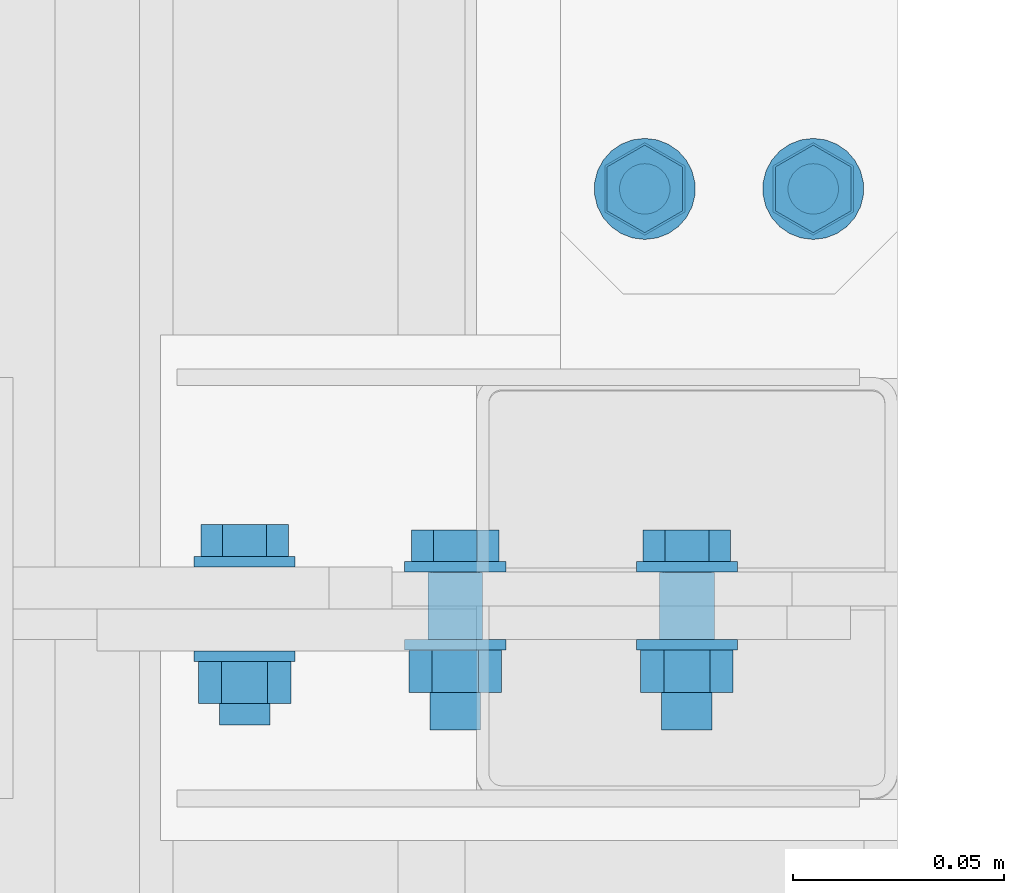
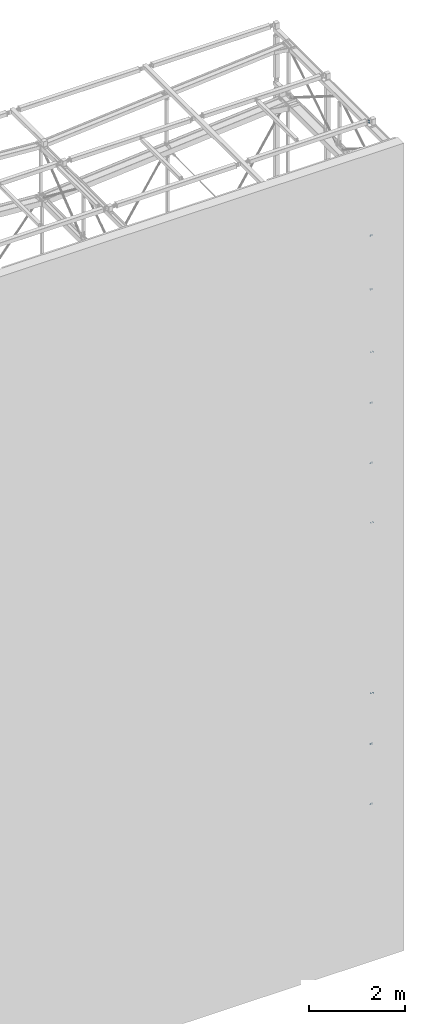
# One storey, part 257 of 271: 10 mechanical fasteners, 10 elements without a shape of their own.
"""IFC2X3 building model written with IfcOpenShell, lengths in millimetres."""

from ifc_helpers import new_model, si_unit, frame, frame_2d, origin_with_axes, origin_2d_with_axis, place, context, subcontext, project, spatial, polyline, circle_curve, parameter, trimmed, segment, composite_curve, circle, outline, extrude, source, transform, mapped, material, type_object, element, aggregate, save


model = new_model("IFC2X3")

# Units and contexts
model_context = context("Model", 3, precision=1e-05, world=origin_with_axes())
body_context = subcontext(model_context, "Body", "Model", "MODEL_VIEW")
ifc_project = project(units=[si_unit("LENGTHUNIT", "METRE", prefix="MILLI"), si_unit("AREAUNIT", "SQUARE_METRE"), si_unit("VOLUMEUNIT", "CUBIC_METRE"), si_unit("MASSUNIT", "GRAM", prefix="KILO"), si_unit("TIMEUNIT", "SECOND"), si_unit("PLANEANGLEUNIT", "RADIAN"), si_unit("SOLIDANGLEUNIT", "STERADIAN"), si_unit("THERMODYNAMICTEMPERATUREUNIT", "DEGREE_CELSIUS"), si_unit("LUMINOUSINTENSITYUNIT", "LUMEN")], contexts=[model_context])

# Site, building, storey
site_placement = place(None, origin_with_axes())
site = spatial("IfcSite", under=ifc_project, at=site_placement, Name="Undefined", CompositionType="ELEMENT")
building_placement = place(site_placement, origin_with_axes())
building = spatial("IfcBuilding", under=site, at=building_placement, Name="Undefined", CompositionType="ELEMENT")
storey_placement = place(building_placement, origin_with_axes())
storey = spatial("IfcBuildingStorey", under=building, at=storey_placement, Name="Undefined", CompositionType="ELEMENT", Elevation=0.0)

# Assembly, mechanical fastener
assembly_1_placement = place(storey_placement, origin_with_axes())
assembly_1 = element("IfcElementAssembly", 1, at=assembly_1_placement, inside=storey, AssemblyPlace="NOTDEFINED", PredefinedType="RIGID_FRAME")
ifc_material = material(Name="Undefined")
mechanical_fastener_type = type_object("IfcMechanicalFastenerType", Name="Bolt assembly")
shared_shape_1 = source(origin_with_axes(), body_context, "Body", "SweptSolid", [
    extrude(circle(Radius=6.5, at=origin_2d_with_axis()), frame((0.0, -5.1, 0.0), z_axis=(0.0, 1.0, 0.0), x_axis=(1.0, 0.0, 0.0)), (0.0, 0.0, 1.0), 10.1),
    extrude(circle(Radius=6.5, at=origin_2d_with_axis()), frame((0.0, -14.9000000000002, 0.0), z_axis=(0.0, 1.0, 0.0), x_axis=(1.0, 0.0, 0.0)), (0.0, 0.0, 1.0), 10.0),
    extrude(outline(polyline([(10.39230484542, 0.0), (5.19615242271, 9.00000000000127), (-5.19615242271, 9.00000000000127), (-10.39230484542, 0.0), (-5.19615242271, -9.00000000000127), (5.19615242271, -9.00000000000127), (10.39230484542, 0.0)])), frame((0.0, -25.0000000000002, 0.0), z_axis=(0.0, 1.0, 0.0), x_axis=(1.0, 0.0, 0.0)), (0.0, 0.0, 1.0), 7.5),
    extrude(circle(Radius=6.0, at=origin_2d_with_axis()), frame((0.0, -17.5000000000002, 0.0), z_axis=(0.0, 1.0, 0.0), x_axis=(1.0, 0.0, 0.0)), (0.0, 0.0, 1.0), 40.0),
    extrude(circle(Radius=12.0, at=origin_2d_with_axis()), frame((0.0, -17.5000000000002, 0.0), z_axis=(0.0, 1.0, 0.0), x_axis=(1.0, 0.0, 0.0)), (0.0, 0.0, 1.0), 2.5),
    extrude(circle(Radius=12.0, at=origin_2d_with_axis()), frame((0.0, 5.00000000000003, 0.0), z_axis=(0.0, 1.0, 0.0), x_axis=(1.0, 0.0, 0.0)), (0.0, 0.0, 1.0), 2.5),
    extrude(outline(polyline([(10.96965511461, 0.0), (5.484827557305, 9.50000000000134), (-5.484827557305, 9.50000000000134), (-10.96965511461, 0.0), (-5.484827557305, -9.50000000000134), (5.484827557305, -9.50000000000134), (10.96965511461, 0.0)])), frame((0.0, 7.50000000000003, 0.0), z_axis=(0.0, 1.0, 0.0), x_axis=(1.0, 0.0, 0.0)), (0.0, 0.0, 1.0), 10.0),
])
mechanical_fastener_1_placement = place(assembly_1_placement, frame((12668.3756870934, 994.052119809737, 15804.3499999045), z_axis=(1.0, 0.0, 0.0), x_axis=(0.0, 1.0, 0.0)))
mechanical_fastener_1 = element("IfcMechanicalFastener", 2, at=mechanical_fastener_1_placement, type_object=mechanical_fastener_type, material=ifc_material, Name="Bolt assembly", NominalDiameter=12.0, NominalLength=40.0, context=body_context, shape_type="MappedRepresentation", body=[
    mapped(shared_shape_1, transform((0.0, 0.0, -20.0))),
    mapped(shared_shape_1, transform((0.0, 0.0, 20.0))),
])
aggregate(assembly_1, [mechanical_fastener_1])

assembly_2_placement = place(storey_placement, origin_with_axes())
assembly_2 = element("IfcElementAssembly", 3, at=assembly_2_placement, inside=storey, AssemblyPlace="NOTDEFINED", PredefinedType="RIGID_FRAME")
mechanical_fastener_2_placement = place(assembly_2_placement, frame((12668.3756870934, 994.052119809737, 17164.3499999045), z_axis=(-1.0, 0.0, 1.38777878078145e-17), x_axis=(0.0, 1.0, 0.0)))
mechanical_fastener_2 = element("IfcMechanicalFastener", 4, at=mechanical_fastener_2_placement, type_object=mechanical_fastener_type, material=ifc_material, Name="Bolt assembly", NominalDiameter=12.0, NominalLength=40.0, context=body_context, shape_type="MappedRepresentation", body=[
    mapped(shared_shape_1, transform((0.0, 0.0, -20.0))),
    mapped(shared_shape_1, transform((0.0, 0.0, 20.0))),
])
aggregate(assembly_2, [mechanical_fastener_2])

assembly_3_placement = place(storey_placement, origin_with_axes())
assembly_3 = element("IfcElementAssembly", 5, at=assembly_3_placement, inside=storey, AssemblyPlace="NOTDEFINED", PredefinedType="RIGID_FRAME")
mechanical_fastener_3_placement = place(assembly_3_placement, frame((12668.3756870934, 994.052119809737, 2761.84999990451), z_axis=(-1.0, 0.0, 1.38777878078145e-17), x_axis=(0.0, 1.0, 0.0)))
mechanical_fastener_3 = element("IfcMechanicalFastener", 6, at=mechanical_fastener_3_placement, type_object=mechanical_fastener_type, material=ifc_material, Name="Bolt assembly", NominalDiameter=12.0, NominalLength=40.0, context=body_context, shape_type="MappedRepresentation", body=[
    mapped(shared_shape_1, transform((0.0, 0.0, -20.0))),
    mapped(shared_shape_1, transform((0.0, 0.0, 20.0))),
])
aggregate(assembly_3, [mechanical_fastener_3])

assembly_4_placement = place(storey_placement, origin_with_axes())
assembly_4 = element("IfcElementAssembly", 7, at=assembly_4_placement, inside=storey, AssemblyPlace="NOTDEFINED", PredefinedType="RIGID_FRAME")
mechanical_fastener_4_placement = place(assembly_4_placement, frame((12668.3756870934, 994.052119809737, 4286.84999990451), z_axis=(1.0, 0.0, 0.0), x_axis=(0.0, 1.0, 0.0)))
mechanical_fastener_4 = element("IfcMechanicalFastener", 8, at=mechanical_fastener_4_placement, type_object=mechanical_fastener_type, material=ifc_material, Name="Bolt assembly", NominalDiameter=12.0, NominalLength=40.0, context=body_context, shape_type="MappedRepresentation", body=[
    mapped(shared_shape_1, transform((0.0, 0.0, -20.0))),
    mapped(shared_shape_1, transform((0.0, 0.0, 20.0))),
])
aggregate(assembly_4, [mechanical_fastener_4])

assembly_5_placement = place(storey_placement, origin_with_axes())
assembly_5 = element("IfcElementAssembly", 9, at=assembly_5_placement, inside=storey, AssemblyPlace="NOTDEFINED", PredefinedType="RIGID_FRAME")
mechanical_fastener_5_placement = place(assembly_5_placement, frame((12668.3756870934, 994.052119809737, 11401.8499999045), z_axis=(-1.0, 0.0, 1.38777878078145e-17), x_axis=(0.0, 1.0, 0.0)))
mechanical_fastener_5 = element("IfcMechanicalFastener", 10, at=mechanical_fastener_5_placement, type_object=mechanical_fastener_type, material=ifc_material, Name="Bolt assembly", NominalDiameter=12.0, NominalLength=40.0, context=body_context, shape_type="MappedRepresentation", body=[
    mapped(shared_shape_1, transform((0.0, 0.0, -20.0))),
    mapped(shared_shape_1, transform((0.0, 0.0, 20.0))),
])
aggregate(assembly_5, [mechanical_fastener_5])

assembly_6_placement = place(storey_placement, origin_with_axes())
assembly_6 = element("IfcElementAssembly", 11, at=assembly_6_placement, inside=storey, AssemblyPlace="NOTDEFINED", PredefinedType="RIGID_FRAME")
mechanical_fastener_6_placement = place(assembly_6_placement, frame((12668.3756870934, 994.052119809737, 12926.8499999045), z_axis=(1.0, 0.0, 0.0), x_axis=(0.0, 1.0, 0.0)))
mechanical_fastener_6 = element("IfcMechanicalFastener", 12, at=mechanical_fastener_6_placement, type_object=mechanical_fastener_type, material=ifc_material, Name="Bolt assembly", NominalDiameter=12.0, NominalLength=40.0, context=body_context, shape_type="MappedRepresentation", body=[
    mapped(shared_shape_1, transform((0.0, 0.0, -20.0))),
    mapped(shared_shape_1, transform((0.0, 0.0, 20.0))),
])
aggregate(assembly_6, [mechanical_fastener_6])

assembly_7_placement = place(storey_placement, origin_with_axes())
assembly_7 = element("IfcElementAssembly", 13, at=assembly_7_placement, inside=storey, AssemblyPlace="NOTDEFINED", PredefinedType="RIGID_FRAME")
shared_shape_2 = source(origin_with_axes(), body_context, "Body", "SweptSolid", [
    extrude(circle(Radius=6.5, at=origin_2d_with_axis()), frame((0.0, 7.89999999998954, 0.0), z_axis=(0.0, 1.0, 0.0), x_axis=(1.0, 0.0, 0.0)), (0.0, 0.0, 1.0), 8.1),
    extrude(circle(Radius=6.5, at=origin_2d_with_axis()), frame((0.0, 0.0999999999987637, 0.0), z_axis=(0.0, 1.0, 0.0), x_axis=(1.0, 0.0, 0.0)), (0.0, 0.0, 1.0), 8.0),
    extrude(outline(polyline([(10.39230484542, 0.0), (5.19615242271, 9.00000000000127), (-5.19615242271, 9.00000000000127), (-10.39230484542, 0.0), (-5.19615242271, -9.00000000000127), (5.19615242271, -9.00000000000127), (10.39230484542, 0.0)])), frame((0.0, -10.0, 0.0), z_axis=(0.0, 1.0, 0.0), x_axis=(1.0, 0.0, 0.0)), (0.0, 0.0, 1.0), 7.5),
    extrude(circle(Radius=6.0, at=origin_2d_with_axis()), frame((0.0, -2.50000000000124, 0.0), z_axis=(0.0, 1.0, 0.0), x_axis=(1.0, 0.0, 0.0)), (0.0, 0.0, 1.0), 40.0),
    extrude(circle(Radius=12.0, at=origin_2d_with_axis()), frame((0.0, -2.50000000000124, 0.0), z_axis=(0.0, 1.0, 0.0), x_axis=(1.0, 0.0, 0.0)), (0.0, 0.0, 1.0), 2.5),
    extrude(circle(Radius=12.0, at=origin_2d_with_axis()), frame((0.0, 16.0, 0.0), z_axis=(0.0, 1.0, 0.0), x_axis=(1.0, 0.0, 0.0)), (0.0, 0.0, 1.0), 2.5),
    extrude(outline(polyline([(10.96965511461, 0.0), (5.484827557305, 9.50000000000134), (-5.484827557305, 9.50000000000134), (-10.96965511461, 0.0), (-5.484827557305, -9.50000000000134), (5.484827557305, -9.50000000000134), (10.96965511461, 0.0)])), frame((0.0, 18.5, 0.0), z_axis=(0.0, 1.0, 0.0), x_axis=(1.0, 0.0, 0.0)), (0.0, 0.0, 1.0), 10.0),
])
mechanical_fastener_7_placement = place(assembly_7_placement, frame((12658.3756870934, 903.052119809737, 14285.8499999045), z_axis=(0.0, 0.0, 1.0), x_axis=(-1.0, 0.0, 1.38777878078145e-17)))
mechanical_fastener_7 = element("IfcMechanicalFastener", 14, at=mechanical_fastener_7_placement, type_object=mechanical_fastener_type, material=ifc_material, Name="Bolt assembly", NominalDiameter=12.0, NominalLength=40.0, context=body_context, shape_type="MappedRepresentation", body=[
    mapped(shared_shape_2, transform((0.0, 0.0, 0.0))),
    mapped(shared_shape_2, transform((55.0, 0.0, 0.0))),
])
aggregate(assembly_7, [mechanical_fastener_7])

assembly_8_placement = place(storey_placement, origin_with_axes())
assembly_8 = element("IfcElementAssembly", 15, at=assembly_8_placement, inside=storey, AssemblyPlace="NOTDEFINED", PredefinedType="RIGID_FRAME")
mechanical_fastener_8_placement = place(assembly_8_placement, frame((12658.3756870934, 903.052119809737, 9965.84999990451), z_axis=(0.0, 0.0, 1.0), x_axis=(-1.0, 0.0, 1.38777878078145e-17)))
mechanical_fastener_8 = element("IfcMechanicalFastener", 16, at=mechanical_fastener_8_placement, type_object=mechanical_fastener_type, material=ifc_material, Name="Bolt assembly", NominalDiameter=12.0, NominalLength=40.0, context=body_context, shape_type="MappedRepresentation", body=[
    mapped(shared_shape_2, transform((0.0, 0.0, 0.0))),
    mapped(shared_shape_2, transform((55.0, 0.0, 0.0))),
])
aggregate(assembly_8, [mechanical_fastener_8])

assembly_9_placement = place(storey_placement, origin_with_axes())
assembly_9 = element("IfcElementAssembly", 17, at=assembly_9_placement, inside=storey, AssemblyPlace="NOTDEFINED", PredefinedType="RIGID_FRAME")
mechanical_fastener_9_placement = place(assembly_9_placement, frame((12658.3756870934, 903.052119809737, 5645.8499999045), z_axis=(0.0, 0.0, 1.0), x_axis=(-1.0, 0.0, 1.38777878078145e-17)))
mechanical_fastener_9 = element("IfcMechanicalFastener", 18, at=mechanical_fastener_9_placement, type_object=mechanical_fastener_type, material=ifc_material, Name="Bolt assembly", NominalDiameter=12.0, NominalLength=40.0, context=body_context, shape_type="MappedRepresentation", body=[
    mapped(shared_shape_2, transform((0.0, 0.0, 0.0))),
    mapped(shared_shape_2, transform((55.0, 0.0, 0.0))),
])
aggregate(assembly_9, [mechanical_fastener_9])

assembly_10_placement = place(storey_placement, origin_with_axes())
assembly_10 = element("IfcElementAssembly", 19, at=assembly_10_placement, inside=storey, AssemblyPlace="NOTDEFINED", PredefinedType="RIGID_FRAME")
shared_shape_3 = source(origin_with_axes(), body_context, "Body", "SweptSolid", [
    extrude(circle(Radius=6.5, at=origin_2d_with_axis()), frame((0.0, -5.1, 0.0), z_axis=(0.0, 1.0, 0.0), x_axis=(1.0, 0.0, 0.0)), (0.0, 0.0, 1.0), 10.1),
    extrude(outline(composite_curve([segment(polyline([(-13.5, 6.5), (13.5, 6.5)]), True, "CONTINUOUS"), segment(trimmed(circle_curve(frame_2d((13.5, 0.0), x_axis=(0.0, 1.0)), 6.5), [parameter(0.0)], [parameter(3.14159265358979)], False, "PARAMETER"), True, "CONTINUOUS"), segment(polyline([(13.5, -6.5), (-13.5, -6.5)]), True, "CONTINUOUS"), segment(trimmed(circle_curve(frame_2d((-13.5, 0.0), x_axis=(0.0, -1.0)), 6.5), [parameter(0.0)], [parameter(3.14159265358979)], False, "PARAMETER"), True, "DISCONTINUOUS")], self_intersect=False)), frame((0.0, -14.9000000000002, 0.0), z_axis=(0.0, 1.0, 0.0), x_axis=(1.0, 0.0, 0.0)), (0.0, 0.0, 1.0), 10.0),
    extrude(outline(polyline([(10.39230484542, 0.0), (5.19615242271, 9.00000000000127), (-5.19615242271, 9.00000000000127), (-10.39230484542, 0.0), (-5.19615242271, -9.00000000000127), (5.19615242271, -9.00000000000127), (10.39230484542, 0.0)])), frame((0.0, -25.0000000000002, 0.0), z_axis=(0.0, 1.0, 0.0), x_axis=(1.0, 0.0, 0.0)), (0.0, 0.0, 1.0), 7.5),
    extrude(circle(Radius=6.0, at=origin_2d_with_axis()), frame((0.0, -17.5000000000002, 0.0), z_axis=(0.0, 1.0, 0.0), x_axis=(1.0, 0.0, 0.0)), (0.0, 0.0, 1.0), 40.0),
    extrude(circle(Radius=12.0, at=origin_2d_with_axis()), frame((0.0, -17.5000000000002, 0.0), z_axis=(0.0, 1.0, 0.0), x_axis=(1.0, 0.0, 0.0)), (0.0, 0.0, 1.0), 2.5),
    extrude(circle(Radius=12.0, at=origin_2d_with_axis()), frame((0.0, 5.00000000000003, 0.0), z_axis=(0.0, 1.0, 0.0), x_axis=(1.0, 0.0, 0.0)), (0.0, 0.0, 1.0), 2.5),
    extrude(outline(polyline([(10.96965511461, 0.0), (5.484827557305, 9.50000000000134), (-5.484827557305, 9.50000000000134), (-10.96965511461, 0.0), (-5.484827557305, -9.50000000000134), (5.484827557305, -9.50000000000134), (10.96965511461, 0.0)])), frame((0.0, 7.50000000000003, 0.0), z_axis=(0.0, 1.0, 0.0), x_axis=(1.0, 0.0, 0.0)), (0.0, 0.0, 1.0), 10.0),
])
mechanical_fastener_10_placement = place(assembly_10_placement, frame((12553.3756870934, 889.32498425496, 20154.3499999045), z_axis=(0.0, 0.0, 1.0), x_axis=(-1.0, 0.0, 1.38777878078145e-17)))
mechanical_fastener_10 = element("IfcMechanicalFastener", 20, at=mechanical_fastener_10_placement, type_object=mechanical_fastener_type, material=ifc_material, Name="Bolt assembly", NominalDiameter=12.0, NominalLength=40.0, context=body_context, shape_type="MappedRepresentation", body=[
    mapped(shared_shape_3, transform((0.0, 0.0, -25.0))),
    mapped(shared_shape_3, transform((0.0, 0.0, 25.0))),
])
aggregate(assembly_10, [mechanical_fastener_10])

save(model, "model.ifc")
